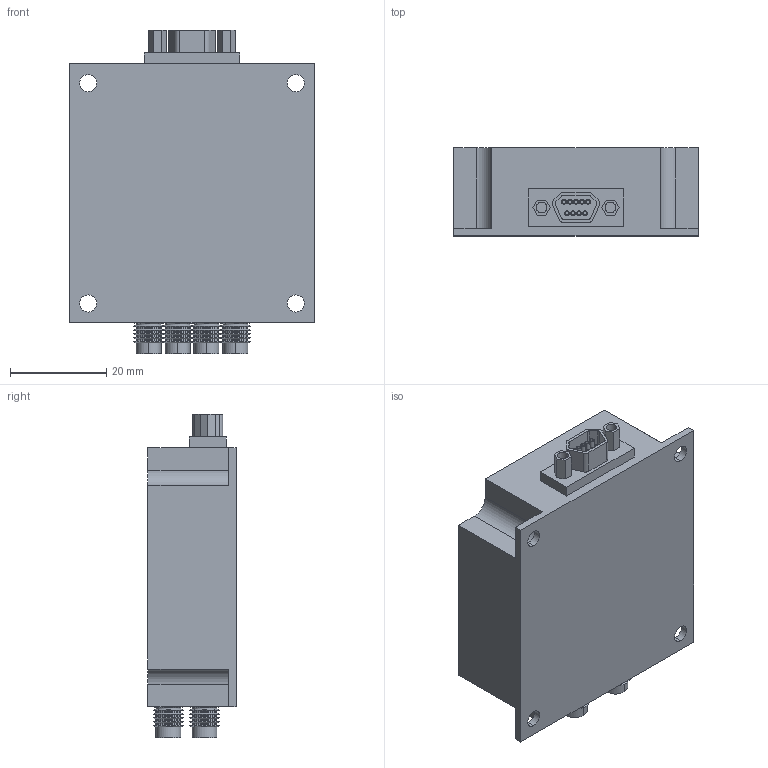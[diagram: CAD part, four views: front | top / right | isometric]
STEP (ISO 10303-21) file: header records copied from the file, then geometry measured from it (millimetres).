
FILE_DESCRIPTION (( 'STEP AP214' ), '1' );
FILE_NAME ('kd5100.STEP', '2010-03-18T21:56:00', ( 'tom edwards' ), ( 'Tom J. Edwards' ), 'SwSTEP 2.0', 'SolidWorks 2008', '' );
FILE_SCHEMA (( 'AUTOMOTIVE_DESIGN' ));
Length unit declared in the file: millimetre
Products named in the file (4): KD5100; mini db9; sma mini; kd5100
Assembly tree (6 placements, depth 2):
  kd5100
    sma mini  x4
    KD5100
    mini db9
Bounding box: 50.8 x 18.33 x 67.3 mm (x, y, z)
Volume: 47080.8 mm3; surface area: 11973.4 mm2
Topology: 6 solids, 6 shells, 422 faces, 890 edges, 516 vertices
Faces by surface type: cylinder 170, cone 160, plane 92
Entity records: 6229 total; most frequent: DIRECTION 1112, CARTESIAN_POINT 982, ORIENTED_EDGE 940, EDGE_CURVE 470, AXIS2_PLACEMENT_3D 424, VERTEX_POINT 294, VECTOR 264, LINE 264
